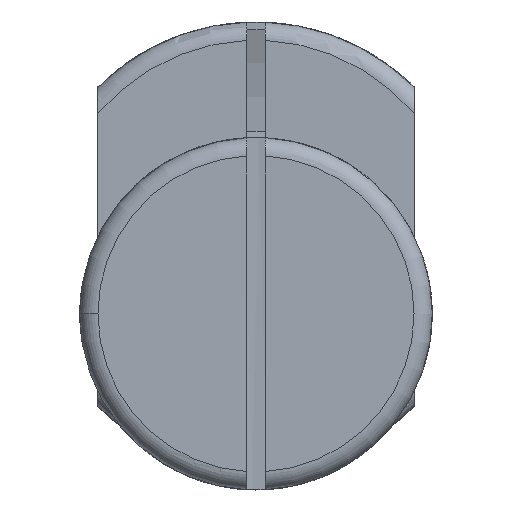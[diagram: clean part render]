
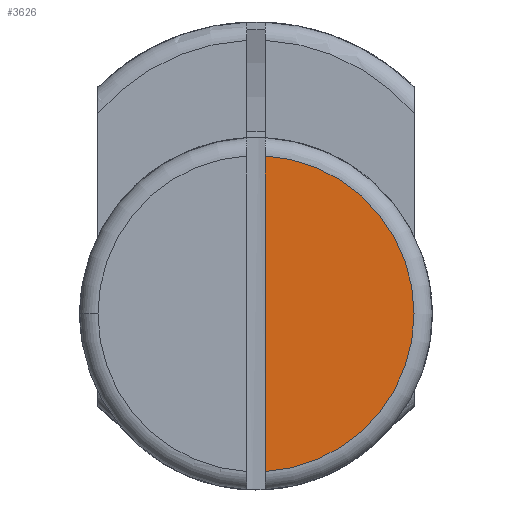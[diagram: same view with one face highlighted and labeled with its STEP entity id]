
A CAD part, front view. The second image highlights one B-rep face of the part: STEP entity #3626.
In plain terms, the highlighted planar face has unit normal (0, -1, 0).
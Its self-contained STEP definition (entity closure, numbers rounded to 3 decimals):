
#423 = DIRECTION ( 'NONE',  ( 1., 0., 0. ) ) ;
#482 = CIRCLE ( 'NONE', #2703, 13. ) ;
#523 = CARTESIAN_POINT ( 'NONE',  ( 0.75, -1.16, -14.5 ) ) ;
#1357 = EDGE_LOOP ( 'NONE', ( #2035, #2267 ) ) ;
#2035 = ORIENTED_EDGE ( 'NONE', *, *, #2220, .F. ) ;
#2130 = VERTEX_POINT ( 'NONE', #2441 ) ;
#2182 = DIRECTION ( 'NONE',  ( 0., 1., 0. ) ) ;
#2220 = EDGE_CURVE ( 'NONE', #2130, #2398, #482, .T. ) ;
#2243 = VECTOR ( 'NONE', #3303, 1000. ) ;
#2267 = ORIENTED_EDGE ( 'NONE', *, *, #2460, .T. ) ;
#2398 = VERTEX_POINT ( 'NONE', #2643 ) ;
#2441 = CARTESIAN_POINT ( 'NONE',  ( 0.75, -1.16, 12.978 ) ) ;
#2460 = EDGE_CURVE ( 'NONE', #2130, #2398, #2991, .T. ) ;
#2522 = DIRECTION ( 'NONE',  ( -1., 0., 0. ) ) ;
#2551 = PLANE ( 'NONE',  #2616 ) ;
#2616 = AXIS2_PLACEMENT_3D ( 'NONE', #3121, #3753, #423 ) ;
#2643 = CARTESIAN_POINT ( 'NONE',  ( 0.75, -1.16, -12.978 ) ) ;
#2703 = AXIS2_PLACEMENT_3D ( 'NONE', #3404, #2182, #2522 ) ;
#2991 = LINE ( 'NONE', #523, #2243 ) ;
#3121 = CARTESIAN_POINT ( 'NONE',  ( -13., -1.16, 0. ) ) ;
#3303 = DIRECTION ( 'NONE',  ( 0., 0., -1. ) ) ;
#3404 = CARTESIAN_POINT ( 'NONE',  ( 0., -1.16, 0. ) ) ;
#3456 = FACE_OUTER_BOUND ( 'NONE', #1357, .T. ) ;
#3626 = ADVANCED_FACE ( 'NONE', ( #3456 ), #2551, .T. ) ;
#3753 = DIRECTION ( 'NONE',  ( 0., -1., 0. ) ) ;
